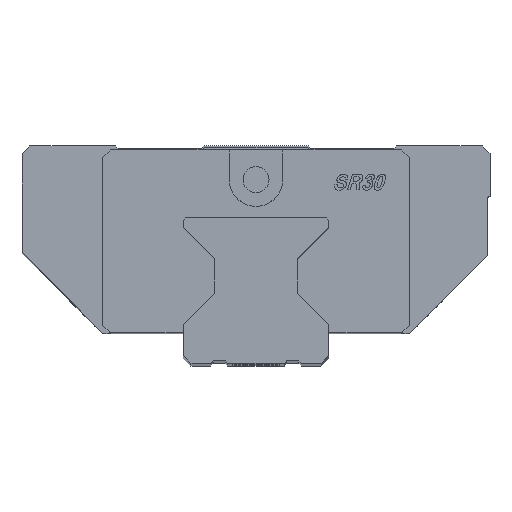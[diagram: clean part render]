
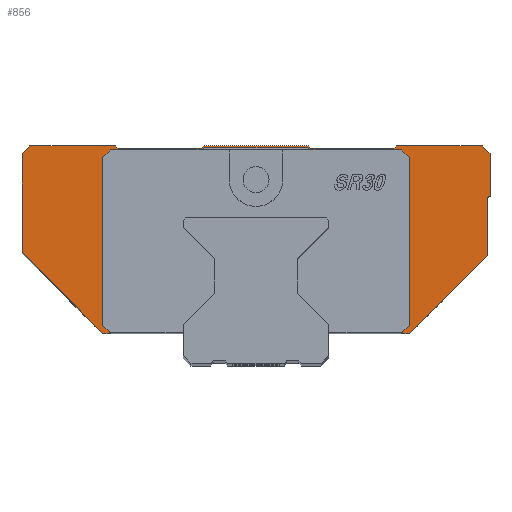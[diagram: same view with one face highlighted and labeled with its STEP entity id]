
A CAD part, top view. The second image highlights one B-rep face of the part: STEP entity #856.
In plain terms, the highlighted planar face has unit normal (0, 0, 1).
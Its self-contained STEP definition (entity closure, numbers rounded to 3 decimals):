
#856=ADVANCED_FACE('',(#1223),#1102,.T.);
#1102=PLANE('',#5468);
#1223=FACE_OUTER_BOUND('',#1530,.T.);
#1530=EDGE_LOOP('',(#2421,#2422,#2423,#2424,#2425,#2426,#2427,#2428,#2429,
#2430,#2431,#2432,#2433,#2434,#2435,#2436,#2437,#2438,#2439,#2440,#2441,
#2442,#2443,#2444,#2445,#2446,#2447,#2448,#2449,#2450));
#2421=ORIENTED_EDGE('',*,*,#3912,.T.);
#2422=ORIENTED_EDGE('',*,*,#3899,.T.);
#2423=ORIENTED_EDGE('',*,*,#3890,.T.);
#2424=ORIENTED_EDGE('',*,*,#3884,.T.);
#2425=ORIENTED_EDGE('',*,*,#4058,.T.);
#2426=ORIENTED_EDGE('',*,*,#4056,.T.);
#2427=ORIENTED_EDGE('',*,*,#4050,.T.);
#2428=ORIENTED_EDGE('',*,*,#4048,.T.);
#2429=ORIENTED_EDGE('',*,*,#4046,.T.);
#2430=ORIENTED_EDGE('',*,*,#4044,.T.);
#2431=ORIENTED_EDGE('',*,*,#4040,.T.);
#2432=ORIENTED_EDGE('',*,*,#4059,.T.);
#2433=ORIENTED_EDGE('',*,*,#4060,.T.);
#2434=ORIENTED_EDGE('',*,*,#4061,.T.);
#2435=ORIENTED_EDGE('',*,*,#4062,.T.);
#2436=ORIENTED_EDGE('',*,*,#4063,.T.);
#2437=ORIENTED_EDGE('',*,*,#3860,.T.);
#2438=ORIENTED_EDGE('',*,*,#3844,.T.);
#2439=ORIENTED_EDGE('',*,*,#3836,.T.);
#2440=ORIENTED_EDGE('',*,*,#3996,.F.);
#2441=ORIENTED_EDGE('',*,*,#3991,.F.);
#2442=ORIENTED_EDGE('',*,*,#3986,.F.);
#2443=ORIENTED_EDGE('',*,*,#3965,.F.);
#2444=ORIENTED_EDGE('',*,*,#4064,.F.);
#2445=ORIENTED_EDGE('',*,*,#4065,.F.);
#2446=ORIENTED_EDGE('',*,*,#4066,.F.);
#2447=ORIENTED_EDGE('',*,*,#3961,.F.);
#2448=ORIENTED_EDGE('',*,*,#4067,.F.);
#2449=ORIENTED_EDGE('',*,*,#3948,.F.);
#2450=ORIENTED_EDGE('',*,*,#3947,.F.);
#3313=VERTEX_POINT('',#7415);
#3314=VERTEX_POINT('',#7417);
#3320=VERTEX_POINT('',#7433);
#3331=VERTEX_POINT('',#7464);
#3350=VERTEX_POINT('',#7511);
#3351=VERTEX_POINT('',#7513);
#3354=VERTEX_POINT('',#7524);
#3360=VERTEX_POINT('',#7542);
#3368=VERTEX_POINT('',#7567);
#3394=VERTEX_POINT('',#7633);
#3395=VERTEX_POINT('',#7637);
#3404=VERTEX_POINT('',#7661);
#3405=VERTEX_POINT('',#7663);
#3408=VERTEX_POINT('',#7669);
#3409=VERTEX_POINT('',#7671);
#3422=VERTEX_POINT('',#7712);
#3426=VERTEX_POINT('',#7724);
#3453=VERTEX_POINT('',#7824);
#3454=VERTEX_POINT('',#7826);
#3457=VERTEX_POINT('',#7834);
#3458=VERTEX_POINT('',#7838);
#3459=VERTEX_POINT('',#7842);
#3460=VERTEX_POINT('',#7846);
#3465=VERTEX_POINT('',#7858);
#3466=VERTEX_POINT('',#7864);
#3467=VERTEX_POINT('',#7866);
#3468=VERTEX_POINT('',#7868);
#3469=VERTEX_POINT('',#7870);
#3470=VERTEX_POINT('',#7873);
#3471=VERTEX_POINT('',#7875);
#3836=EDGE_CURVE('',#3314,#3313,#4438,.T.);
#3844=EDGE_CURVE('',#3320,#3314,#4442,.T.);
#3860=EDGE_CURVE('',#3331,#3320,#4456,.T.);
#3884=EDGE_CURVE('',#3351,#3350,#4473,.T.);
#3890=EDGE_CURVE('',#3354,#3351,#4479,.T.);
#3899=EDGE_CURVE('',#3360,#3354,#4488,.T.);
#3912=EDGE_CURVE('',#3368,#3360,#4496,.T.);
#3947=EDGE_CURVE('',#3368,#3394,#4530,.T.);
#3948=EDGE_CURVE('',#3394,#3395,#4531,.T.);
#3961=EDGE_CURVE('',#3404,#3405,#4540,.T.);
#3965=EDGE_CURVE('',#3408,#3409,#4544,.T.);
#3986=EDGE_CURVE('',#3409,#3422,#4562,.T.);
#3991=EDGE_CURVE('',#3422,#3426,#4565,.T.);
#3996=EDGE_CURVE('',#3426,#3313,#4568,.T.);
#4040=EDGE_CURVE('',#3454,#3453,#4602,.T.);
#4044=EDGE_CURVE('',#3457,#3454,#4604,.T.);
#4046=EDGE_CURVE('',#3458,#3457,#4606,.T.);
#4048=EDGE_CURVE('',#3459,#3458,#4608,.T.);
#4050=EDGE_CURVE('',#3460,#3459,#4610,.T.);
#4056=EDGE_CURVE('',#3465,#3460,#4612,.T.);
#4058=EDGE_CURVE('',#3350,#3465,#4614,.T.);
#4059=EDGE_CURVE('',#3453,#3466,#4615,.T.);
#4060=EDGE_CURVE('',#3466,#3467,#4616,.T.);
#4061=EDGE_CURVE('',#3467,#3468,#4617,.T.);
#4062=EDGE_CURVE('',#3468,#3469,#4618,.T.);
#4063=EDGE_CURVE('',#3469,#3331,#4619,.T.);
#4064=EDGE_CURVE('',#3470,#3408,#4620,.T.);
#4065=EDGE_CURVE('',#3471,#3470,#4621,.T.);
#4066=EDGE_CURVE('',#3405,#3471,#4622,.T.);
#4067=EDGE_CURVE('',#3395,#3404,#4623,.T.);
#4438=LINE('',#7416,#4868);
#4442=LINE('',#7432,#4872);
#4456=LINE('',#7463,#4886);
#4473=LINE('',#7512,#4903);
#4479=LINE('',#7523,#4909);
#4488=LINE('',#7541,#4918);
#4496=LINE('',#7566,#4926);
#4530=LINE('',#7634,#4960);
#4531=LINE('',#7636,#4961);
#4540=LINE('',#7662,#4970);
#4544=LINE('',#7670,#4974);
#4562=LINE('',#7713,#4992);
#4565=LINE('',#7723,#4995);
#4568=LINE('',#7733,#4998);
#4602=LINE('',#7825,#5032);
#4604=LINE('',#7833,#5034);
#4606=LINE('',#7837,#5036);
#4608=LINE('',#7841,#5038);
#4610=LINE('',#7845,#5040);
#4612=LINE('',#7857,#5042);
#4614=LINE('',#7861,#5044);
#4615=LINE('',#7863,#5045);
#4616=LINE('',#7865,#5046);
#4617=LINE('',#7867,#5047);
#4618=LINE('',#7869,#5048);
#4619=LINE('',#7871,#5049);
#4620=LINE('',#7872,#5050);
#4621=LINE('',#7874,#5051);
#4622=LINE('',#7876,#5052);
#4623=LINE('',#7877,#5053);
#4868=VECTOR('',#5828,1.);
#4872=VECTOR('',#5844,1.);
#4886=VECTOR('',#5870,1.);
#4903=VECTOR('',#5911,1.);
#4909=VECTOR('',#5921,1.);
#4918=VECTOR('',#5936,1.);
#4926=VECTOR('',#5962,1.);
#4960=VECTOR('',#6010,1.);
#4961=VECTOR('',#6013,1.);
#4970=VECTOR('',#6036,1.);
#4974=VECTOR('',#6040,1.);
#4992=VECTOR('',#6080,1.);
#4995=VECTOR('',#6091,1.);
#4998=VECTOR('',#6102,1.);
#5032=VECTOR('',#6202,1.);
#5034=VECTOR('',#6210,1.);
#5036=VECTOR('',#6214,1.);
#5038=VECTOR('',#6218,1.);
#5040=VECTOR('',#6222,1.);
#5042=VECTOR('',#6234,1.);
#5044=VECTOR('',#6238,1.);
#5045=VECTOR('',#6241,1.);
#5046=VECTOR('',#6242,1.);
#5047=VECTOR('',#6243,1.);
#5048=VECTOR('',#6244,1.);
#5049=VECTOR('',#6245,1.);
#5050=VECTOR('',#6246,1.);
#5051=VECTOR('',#6247,1.);
#5052=VECTOR('',#6248,1.);
#5053=VECTOR('',#6249,1.);
#5468=AXIS2_PLACEMENT_3D('',#7878,#6250,#6251);
#5828=DIRECTION('',(1.,0.,0.));
#5844=DIRECTION('',(0.707,-0.707,0.));
#5870=DIRECTION('',(0.,-1.,0.));
#5911=DIRECTION('',(0.707,0.707,0.));
#5921=DIRECTION('',(0.,1.,0.));
#5936=DIRECTION('',(0.707,0.707,0.));
#5962=DIRECTION('',(1.,0.,0.));
#6010=DIRECTION('',(0.707,0.707,0.));
#6013=DIRECTION('',(0.,1.,0.));
#6036=DIRECTION('',(-1.,0.,0.));
#6040=DIRECTION('',(-1.,0.,0.));
#6080=DIRECTION('',(-0.707,-0.707,0.));
#6091=DIRECTION('',(0.,-1.,0.));
#6102=DIRECTION('',(0.707,-0.707,0.));
#6202=DIRECTION('',(-1.,0.,0.));
#6210=DIRECTION('',(-0.707,0.707,0.));
#6214=DIRECTION('',(-1.,0.,0.));
#6218=DIRECTION('',(-0.707,-0.707,0.));
#6222=DIRECTION('',(-1.,0.,0.));
#6234=DIRECTION('',(-0.707,0.707,0.));
#6238=DIRECTION('',(0.,1.,0.));
#6241=DIRECTION('',(-0.707,-0.707,0.));
#6242=DIRECTION('',(-1.,0.,0.));
#6243=DIRECTION('',(-0.707,0.707,0.));
#6244=DIRECTION('',(-1.,0.,0.));
#6245=DIRECTION('',(-0.707,-0.707,0.));
#6246=DIRECTION('',(-0.707,-0.707,0.));
#6247=DIRECTION('',(-1.,0.,0.));
#6248=DIRECTION('',(-0.707,0.707,0.));
#6249=DIRECTION('',(-0.707,0.707,0.));
#6250=DIRECTION('',(0.,0.,1.));
#6251=DIRECTION('',(1.,0.,0.));
#7415=CARTESIAN_POINT('',(-28.,6.,35.5));
#7416=CARTESIAN_POINT('',(-29.5,6.,35.5));
#7417=CARTESIAN_POINT('',(-29.5,6.,35.5));
#7432=CARTESIAN_POINT('',(-45.,21.5,35.5));
#7433=CARTESIAN_POINT('',(-45.,21.5,35.5));
#7463=CARTESIAN_POINT('',(-45.,40.5,35.5));
#7464=CARTESIAN_POINT('',(-45.,40.5,35.5));
#7511=CARTESIAN_POINT('',(45.,32.5,35.5));
#7512=CARTESIAN_POINT('',(44.5,32.,35.5));
#7513=CARTESIAN_POINT('',(44.5,32.,35.5));
#7523=CARTESIAN_POINT('',(44.5,21.,35.5));
#7524=CARTESIAN_POINT('',(44.5,21.,35.5));
#7541=CARTESIAN_POINT('',(29.5,6.,35.5));
#7542=CARTESIAN_POINT('',(29.5,6.,35.5));
#7566=CARTESIAN_POINT('',(28.,6.,35.5));
#7567=CARTESIAN_POINT('',(28.,6.,35.5));
#7633=CARTESIAN_POINT('',(29.5,7.5,35.5));
#7634=CARTESIAN_POINT('',(28.,6.,35.5));
#7636=CARTESIAN_POINT('',(29.5,7.5,35.5));
#7637=CARTESIAN_POINT('',(29.5,39.7,35.5));
#7661=CARTESIAN_POINT('',(28.,41.2,35.5));
#7662=CARTESIAN_POINT('',(28.,41.2,35.5));
#7663=CARTESIAN_POINT('',(10.376,41.2,35.5));
#7669=CARTESIAN_POINT('',(-10.376,41.2,35.5));
#7670=CARTESIAN_POINT('',(-10.376,41.2,35.5));
#7671=CARTESIAN_POINT('',(-28.,41.2,35.5));
#7712=CARTESIAN_POINT('',(-29.5,39.7,35.5));
#7713=CARTESIAN_POINT('',(-28.,41.2,35.5));
#7723=CARTESIAN_POINT('',(-29.5,39.7,35.5));
#7724=CARTESIAN_POINT('',(-29.5,7.5,35.5));
#7733=CARTESIAN_POINT('',(-29.5,7.5,35.5));
#7824=CARTESIAN_POINT('',(-10.,42.,35.5));
#7825=CARTESIAN_POINT('',(10.,42.,35.5));
#7826=CARTESIAN_POINT('',(10.,42.,35.5));
#7833=CARTESIAN_POINT('',(10.5,41.5,35.5));
#7834=CARTESIAN_POINT('',(10.5,41.5,35.5));
#7837=CARTESIAN_POINT('',(26.5,41.5,35.5));
#7838=CARTESIAN_POINT('',(26.5,41.5,35.5));
#7841=CARTESIAN_POINT('',(27.,42.,35.5));
#7842=CARTESIAN_POINT('',(27.,42.,35.5));
#7845=CARTESIAN_POINT('',(43.5,42.,35.5));
#7846=CARTESIAN_POINT('',(43.5,42.,35.5));
#7857=CARTESIAN_POINT('',(45.,40.5,35.5));
#7858=CARTESIAN_POINT('',(45.,40.5,35.5));
#7861=CARTESIAN_POINT('',(45.,32.5,35.5));
#7863=CARTESIAN_POINT('',(-10.,42.,35.5));
#7864=CARTESIAN_POINT('',(-10.5,41.5,35.5));
#7865=CARTESIAN_POINT('',(-10.5,41.5,35.5));
#7866=CARTESIAN_POINT('',(-26.5,41.5,35.5));
#7867=CARTESIAN_POINT('',(-26.5,41.5,35.5));
#7868=CARTESIAN_POINT('',(-27.,42.,35.5));
#7869=CARTESIAN_POINT('',(-27.,42.,35.5));
#7870=CARTESIAN_POINT('',(-43.5,42.,35.5));
#7871=CARTESIAN_POINT('',(-43.5,42.,35.5));
#7872=CARTESIAN_POINT('',(-9.876,41.7,35.5));
#7873=CARTESIAN_POINT('',(-9.876,41.7,35.5));
#7874=CARTESIAN_POINT('',(9.876,41.7,35.5));
#7875=CARTESIAN_POINT('',(9.876,41.7,35.5));
#7876=CARTESIAN_POINT('',(10.376,41.2,35.5));
#7877=CARTESIAN_POINT('',(29.5,39.7,35.5));
#7878=CARTESIAN_POINT('',(-49.5,4.2,35.5));
